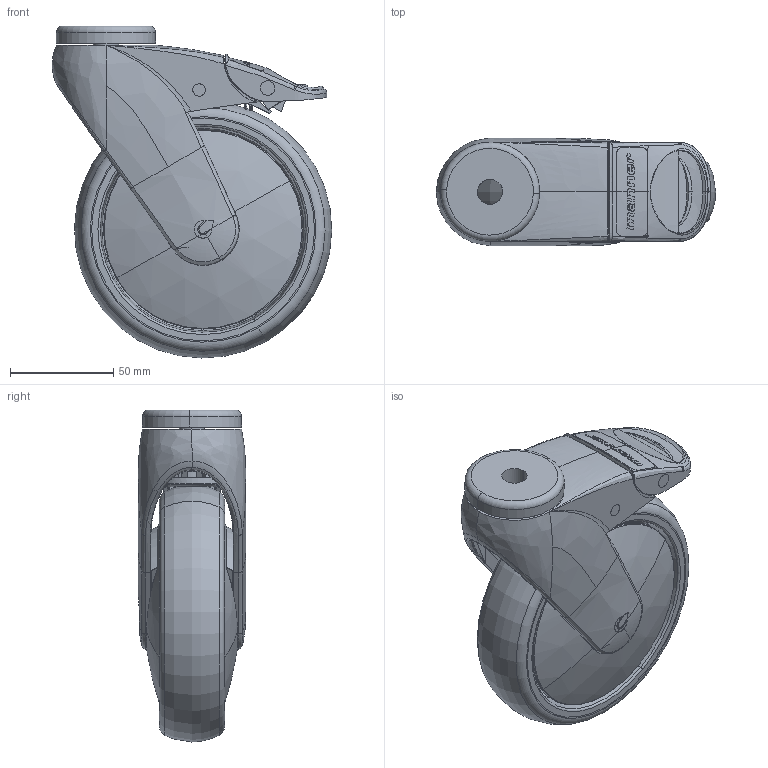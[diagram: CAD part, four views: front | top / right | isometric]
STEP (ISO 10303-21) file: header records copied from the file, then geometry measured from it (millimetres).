
FILE_DESCRIPTION (( 'STEP AP203' ), '1' );
FILE_NAME ('301645_STEP.STEP', '2011-06-10T07:16:14', ( '' ), ( '' ), 'SwSTEP 2.0', 'SolidWorks 2011', '' );
FILE_SCHEMA (( 'CONFIG_CONTROL_DESIGN' ));
Length unit declared in the file: millimetre
Products named in the file (1): 301645_STEP
Bounding box: 135.25 x 52 x 160.7 mm (x, y, z)
Surface area: 113554 mm2 (no closed solid volume)
Topology: 0 solids, 34 shells, 571 faces, 2792 edges, 2179 vertices
Faces by surface type: bspline 293, plane 119, cylinder 87, torus 42, cone 26, sphere 4
Entity records: 94666 total; most frequent: CARTESIAN_POINT 77188, ORIENTED_EDGE 4431, EDGE_CURVE 2779, VERTEX_POINT 2179, DIRECTION 1912, B_SPLINE_CURVE_WITH_KNOTS 1687, AXIS2_PLACEMENT_3D 690, EDGE_LOOP 602
